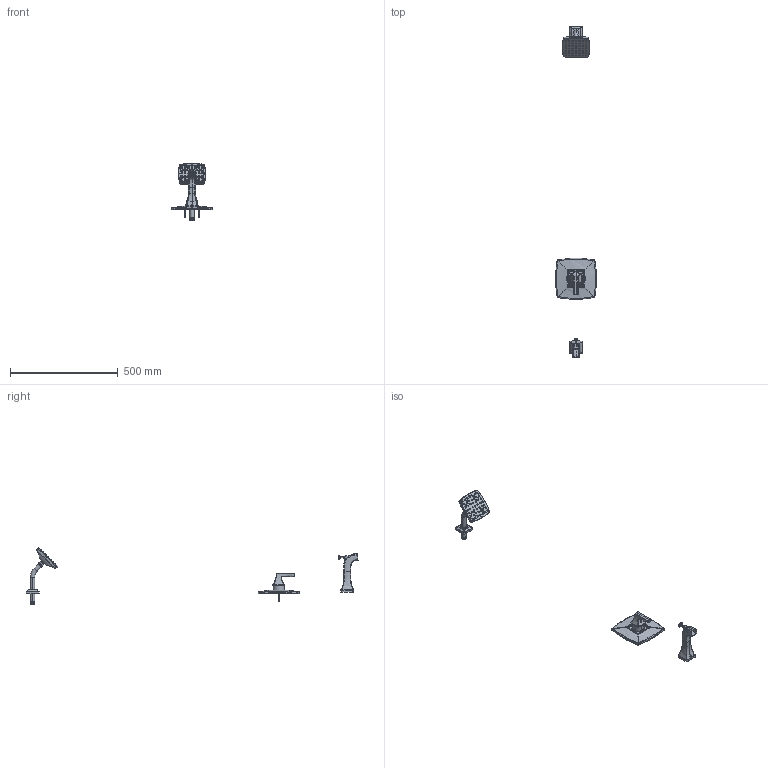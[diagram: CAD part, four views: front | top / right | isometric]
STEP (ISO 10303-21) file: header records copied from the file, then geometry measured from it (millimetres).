
FILE_DESCRIPTION (( 'STEP AP214' ), '1' );
FILE_NAME ('5692TRM.STEP', '2025-01-02T06:33:22', ( '' ), ( '' ), 'SwSTEP 2.0', 'SolidWorks 2023', '' );
FILE_SCHEMA (( 'AUTOMOTIVE_DESIGN' ));
Products named in the file (1): 5692TRM
Bounding box: 189.52 x 1541.47 x 264.18 mm (x, y, z)
Surface area: 275057.5 mm2 (no closed solid volume)
Topology: 0 solids, 162 shells, 1035 faces, 4102 edges, 3150 vertices
Faces by surface type: bspline 397, cylinder 247, plane 240, cone 98, torus 35, sphere 18
Entity records: 127847 total; most frequent: CARTESIAN_POINT 99357, ORIENTED_EDGE 5772, DIRECTION 4277, EDGE_CURVE 4097, VERTEX_POINT 3149, B_SPLINE_CURVE_WITH_KNOTS 2013, AXIS2_PLACEMENT_3D 1646, EDGE_LOOP 1262
